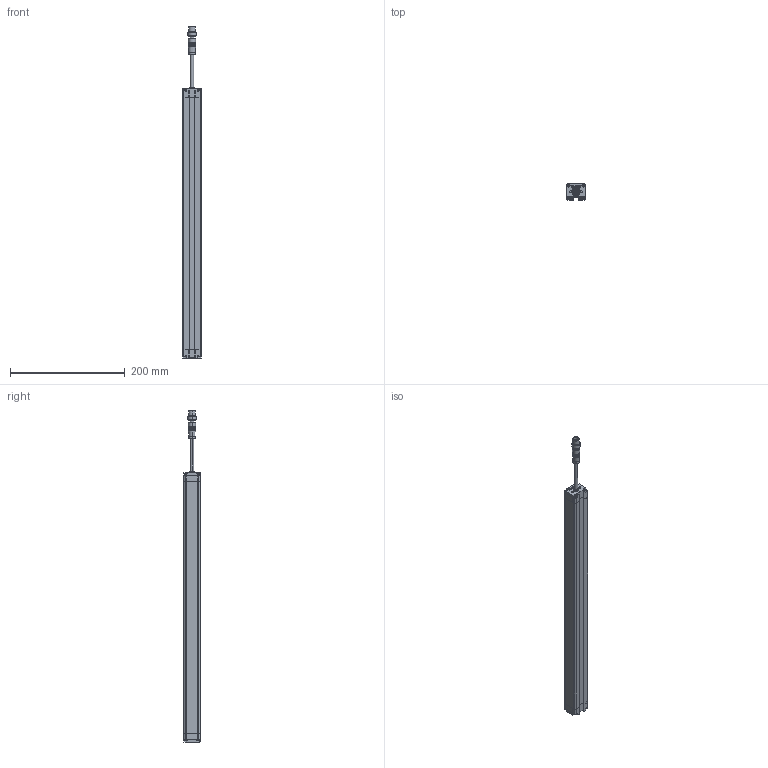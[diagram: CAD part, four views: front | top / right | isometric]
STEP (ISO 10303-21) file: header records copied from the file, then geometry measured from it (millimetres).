
FILE_DESCRIPTION((''),'2;1');
FILE_NAME('SMT1-CGQ_ASM','2025-08-08T08:24:51',('Administrator'),(''),'CREO PARAMETRIC BY PTC INC, 2016510','CREO PARAMETRIC BY PTC INC, 2016510','');
FILE_SCHEMA(('CONFIG_CONTROL_DESIGN'));
Length unit declared in the file: millimetre
Products named in the file (7): SMT1-XINGCAI-V1; SMT1-SDG-V1; SMT1-XDG-V1; M12-CHATOU; ST3X18; CT4-LVGUANGBAN; SMT1-CGQ_ASM
Assembly tree (13 placements, depth 2):
  SMT1-CGQ_ASM
    SMT1-XINGCAI-V1
    SMT1-SDG-V1
    SMT1-XDG-V1
    M12-CHATOU
    ST3X18  x8
    CT4-LVGUANGBAN
Bounding box: 33 x 28.02 x 579.5 mm (x, y, z)
Volume: 368814.7 mm3; surface area: 122687.2 mm2
Topology: 13 solids, 13 shells, 712 faces, 1868 edges, 1200 vertices
Faces by surface type: plane 382, cylinder 184, extrusion 86, sphere 32, cone 20, bspline 8
Entity records: 18128 total; most frequent: CARTESIAN_POINT 4347, ORIENTED_EDGE 2916, DIRECTION 2580, EDGE_CURVE 1458, VECTOR 1036, VERTEX_POINT 955, LINE 950, AXIS2_PLACEMENT_3D 772
